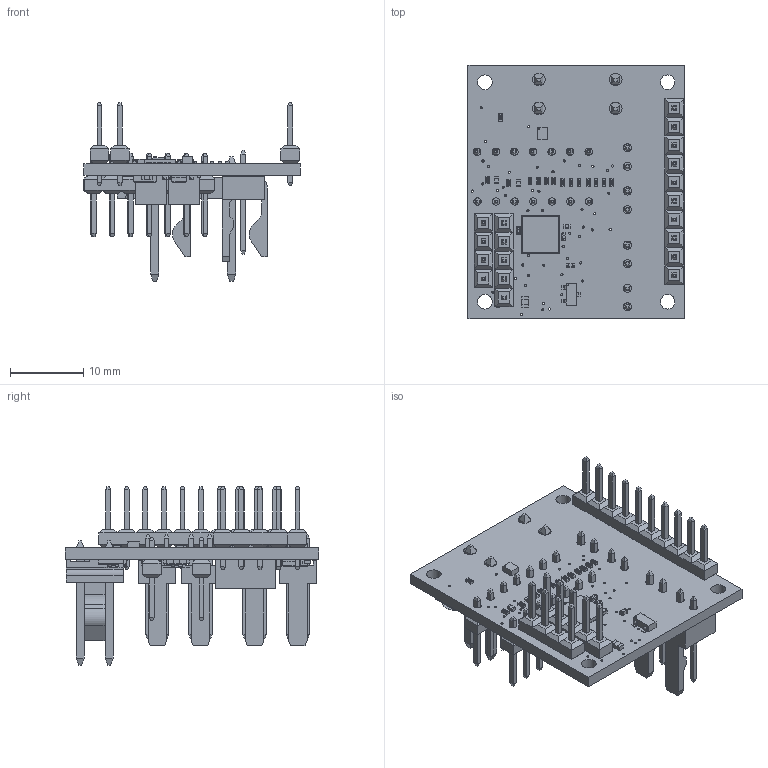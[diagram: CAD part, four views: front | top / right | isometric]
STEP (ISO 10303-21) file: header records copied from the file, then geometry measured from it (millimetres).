
FILE_DESCRIPTION(/* description */ (''),/* implementation_level */ '2;1');
FILE_NAME(/* name */ 'C:/Users/priba/Documents/Temp/Export/mrm-meter v1.step',/* time_stamp */ '2019-09-09T00:16:53+02:00',/* author */ (''),/* organization */ (''),/* preprocessor_version */ 'ST-DEVELOPER v18',/* originating_system */ 'Autodesk Translation Framework v8.6.0.1094',/* authorisation */ '');
FILE_SCHEMA (('AUTOMOTIVE_DESIGN { 1 0 10303 214 3 1 1 }'));
Products named in the file (28): mrm-meter; PCB Component; Board; 1 uF; R0402; MICROCHIP_MCP1725T-ADJE/MC; INFINEON_TLE9250XLEXUMA1; JST_BM04B-GHK-TBT; 1X05; 1X04; SOT-23; FIDUCIAL1X2; STM32F042G6U6; CHIPLED_0402; 1.5 kOhm; MOLEX_22-27-2021; MOLEX_1718130002; 1X07; 30 kOhm; TI_TPD8E003DQDR; Body; ThermalPin; PinsArrayLR; TI_ESD321DPYR; term1; term2; body_1; 1X10
Assembly tree (63 placements, depth 4):
  mrm-meter
    PCB Component
      Board
      1 uF  x7
      R0402  x16
      MICROCHIP_MCP1725T-ADJE/MC
      INFINEON_TLE9250XLEXUMA1
      JST_BM04B-GHK-TBT  x2
      1X05
      1X04
      SOT-23
      FIDUCIAL1X2  x4
      STM32F042G6U6
      CHIPLED_0402  x2
      1.5 kOhm  x2
      MOLEX_22-27-2021  x4
      MOLEX_1718130002  x2
      1X07  x2
      30 kOhm  x4
      TI_TPD8E003DQDR
        Body
        ThermalPin
        PinsArrayLR
      TI_ESD321DPYR  x2
        term1
        term2
        body_1
      1X10
Bounding box: 29.66 x 34.6 x 24.46 mm (x, y, z)
Volume: 3394.4 mm3; surface area: 6889.1 mm2
Topology: 103 solids, 103 shells, 4853 faces, 13221 edges, 8629 vertices
Faces by surface type: plane 3305, cylinder 1076, sphere 360, bspline 64, torus 48
Full cylindrical faces by diameter (mm): 0.169 x1, 0.3 x56, 0.635 x4, 1.016 x33, 1.11 x8, 1.5 x4, 1.6 x4, 1.73 x4, 2 x4
Entity records: 64732 total; most frequent: CARTESIAN_POINT 12790, ORIENTED_EDGE 10224, DIRECTION 9744, EDGE_CURVE 5112, LINE 4190, VECTOR 4190, VERTEX_POINT 3202, AXIS2_PLACEMENT_3D 2777
